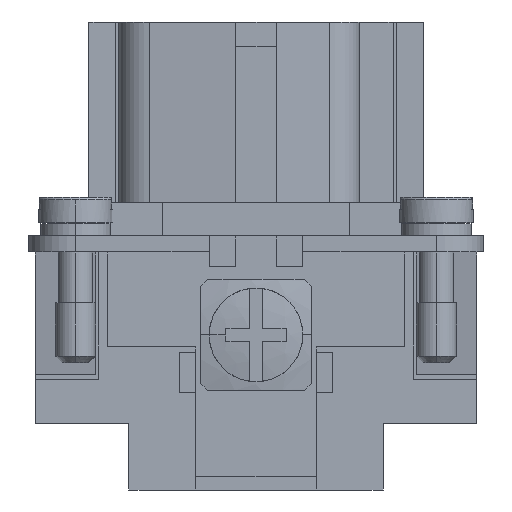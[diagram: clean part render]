
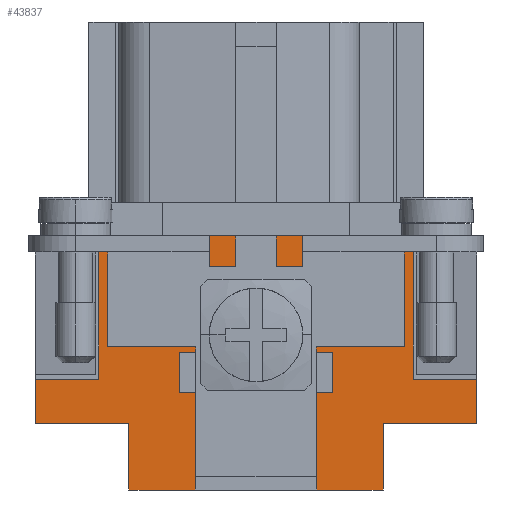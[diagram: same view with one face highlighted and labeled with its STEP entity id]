
A CAD part, left-side view. The second image highlights one B-rep face of the part: STEP entity #43837.
In plain terms, the highlighted planar face has unit normal (-1, 0, 0).
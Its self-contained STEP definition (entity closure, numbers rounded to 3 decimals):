
#6331 = DIRECTION ( 'NONE',  ( 0., 0., 1. ) ) ;
#6545 = DIRECTION ( 'NONE',  ( 0., -1., 0. ) ) ;
#6618 = CARTESIAN_POINT ( 'NONE',  ( -45., -16.5, 0. ) ) ;
#6630 = DIRECTION ( 'NONE',  ( 0., -1., 0. ) ) ;
#6631 = CARTESIAN_POINT ( 'NONE',  ( -45., 9.5, 0. ) ) ;
#6638 = CARTESIAN_POINT ( 'NONE',  ( -45., -16.5, 0. ) ) ;
#6652 = DIRECTION ( 'NONE',  ( 0., 0., -1. ) ) ;
#6678 = CARTESIAN_POINT ( 'NONE',  ( -45., -16.5, 3.5 ) ) ;
#6685 = CARTESIAN_POINT ( 'NONE',  ( -45., -9.5, 0. ) ) ;
#6713 = CARTESIAN_POINT ( 'NONE',  ( -45., 4.55, 0. ) ) ;
#6755 = DIRECTION ( 'NONE',  ( 0., -1., 0. ) ) ;
#6757 = CARTESIAN_POINT ( 'NONE',  ( -45., -4.55, 0. ) ) ;
#6758 = DIRECTION ( 'NONE',  ( 0., 0., -1. ) ) ;
#6772 = DIRECTION ( 'NONE',  ( 0., 0., 1. ) ) ;
#10308 = ORIENTED_EDGE ( 'NONE', *, *, #16523, .T. ) ;
#10329 = ORIENTED_EDGE ( 'NONE', *, *, #16553, .T. ) ;
#10357 = ORIENTED_EDGE ( 'NONE', *, *, #19092, .F. ) ;
#10425 = ORIENTED_EDGE ( 'NONE', *, *, #16789, .T. ) ;
#10469 = ORIENTED_EDGE ( 'NONE', *, *, #19152, .T. ) ;
#10488 = ORIENTED_EDGE ( 'NONE', *, *, #19275, .T. ) ;
#10492 = ORIENTED_EDGE ( 'NONE', *, *, #16532, .T. ) ;
#10507 = ORIENTED_EDGE ( 'NONE', *, *, #19434, .T. ) ;
#10629 = ORIENTED_EDGE ( 'NONE', *, *, #19093, .F. ) ;
#10817 = ORIENTED_EDGE ( 'NONE', *, *, #16527, .T. ) ;
#10888 = ORIENTED_EDGE ( 'NONE', *, *, #16545, .T. ) ;
#10968 = ORIENTED_EDGE ( 'NONE', *, *, #16797, .T. ) ;
#10981 = ORIENTED_EDGE ( 'NONE', *, *, #16547, .T. ) ;
#11019 = ORIENTED_EDGE ( 'NONE', *, *, #16560, .T. ) ;
#11045 = ORIENTED_EDGE ( 'NONE', *, *, #19274, .F. ) ;
#11067 = ORIENTED_EDGE ( 'NONE', *, *, #16690, .T. ) ;
#12412 = EDGE_LOOP ( 'NONE', ( #11067, #10469, #11045, #10357, #10488, #10492, #10817, #11019, #10888, #10981, #10308, #10329, #10507, #10629, #10968, #10425 ) ) ;
#16523 = EDGE_CURVE ( 'NONE', #45088, #44984, #76535, .T. ) ;
#16527 = EDGE_CURVE ( 'NONE', #45199, #44988, #76546, .T. ) ;
#16532 = EDGE_CURVE ( 'NONE', #44995, #45199, #76541, .T. ) ;
#16545 = EDGE_CURVE ( 'NONE', #45198, #45004, #76555, .T. ) ;
#16547 = EDGE_CURVE ( 'NONE', #45004, #45088, #67877, .T. ) ;
#16553 = EDGE_CURVE ( 'NONE', #44984, #45060, #76698, .T. ) ;
#16560 = EDGE_CURVE ( 'NONE', #44988, #45198, #85485, .T. ) ;
#16690 = EDGE_CURVE ( 'NONE', #44849, #45169, #67999, .T. ) ;
#16789 = EDGE_CURVE ( 'NONE', #45231, #44849, #68165, .T. ) ;
#16797 = EDGE_CURVE ( 'NONE', #44972, #45231, #68189, .T. ) ;
#19092 = EDGE_CURVE ( 'NONE', #46286, #46179, #29392, .T. ) ;
#19093 = EDGE_CURVE ( 'NONE', #44972, #46294, #29371, .T. ) ;
#19152 = EDGE_CURVE ( 'NONE', #45169, #46094, #29464, .T. ) ;
#19274 = EDGE_CURVE ( 'NONE', #46179, #46094, #29583, .T. ) ;
#19275 = EDGE_CURVE ( 'NONE', #46286, #44995, #29584, .T. ) ;
#19434 = EDGE_CURVE ( 'NONE', #45060, #46294, #29824, .T. ) ;
#19700 = DIRECTION ( 'NONE',  ( 0., -1., 0. ) ) ;
#19701 = CARTESIAN_POINT ( 'NONE',  ( -45., -16.5, 5. ) ) ;
#19702 = DIRECTION ( 'NONE',  ( 0., -1., 0. ) ) ;
#19703 = CARTESIAN_POINT ( 'NONE',  ( -45., 14.125, 8.3 ) ) ;
#20141 = DIRECTION ( 'NONE',  ( 0., 0., -1. ) ) ;
#20152 = CARTESIAN_POINT ( 'NONE',  ( -45., 11.75, 19. ) ) ;
#21621 = FACE_OUTER_BOUND ( 'NONE', #12412, .T. ) ;
#25150 = CARTESIAN_POINT ( 'NONE',  ( -45., -16.5, 0. ) ) ;
#25164 = PLANE ( 'NONE',  #58046 ) ;
#25181 = DIRECTION ( 'NONE',  ( -1., 0., 0. ) ) ;
#25184 = DIRECTION ( 'NONE',  ( 0., 0., 1. ) ) ;
#29371 = LINE ( 'NONE', #87739, #29394 ) ;
#29392 = LINE ( 'NONE', #88589, #29393 ) ;
#29393 = VECTOR ( 'NONE', #88609, 1000. ) ;
#29394 = VECTOR ( 'NONE', #87660, 1000. ) ;
#29459 = VECTOR ( 'NONE', #20141, 1000. ) ;
#29464 = LINE ( 'NONE', #20152, #29459 ) ;
#29578 = VECTOR ( 'NONE', #19702, 1000. ) ;
#29583 = LINE ( 'NONE', #19703, #29578 ) ;
#29584 = LINE ( 'NONE', #19701, #29585 ) ;
#29585 = VECTOR ( 'NONE', #19700, 1000. ) ;
#29824 = LINE ( 'NONE', #37846, #29825 ) ;
#29825 = VECTOR ( 'NONE', #37844, 1000. ) ;
#32819 = DIRECTION ( 'NONE',  ( 0., 1., 0. ) ) ;
#32821 = CARTESIAN_POINT ( 'NONE',  ( -45., -16.5, 8.3 ) ) ;
#32850 = DIRECTION ( 'NONE',  ( 0., 0., 1. ) ) ;
#32867 = CARTESIAN_POINT ( 'NONE',  ( -45., -11.75, 0. ) ) ;
#33185 = DIRECTION ( 'NONE',  ( 0., 1., 0. ) ) ;
#33187 = CARTESIAN_POINT ( 'NONE',  ( -45., -16.5, 19. ) ) ;
#37844 = DIRECTION ( 'NONE',  ( 0., -1., 0. ) ) ;
#37846 = CARTESIAN_POINT ( 'NONE',  ( -45., -16.5, 5. ) ) ;
#43837 = ADVANCED_FACE ( 'NONE', ( #21621 ), #25164, .T. ) ;
#44849 = VERTEX_POINT ( 'NONE', #86096 ) ;
#44972 = VERTEX_POINT ( 'NONE', #86219 ) ;
#44984 = VERTEX_POINT ( 'NONE', #86231 ) ;
#44988 = VERTEX_POINT ( 'NONE', #86235 ) ;
#44995 = VERTEX_POINT ( 'NONE', #86242 ) ;
#45004 = VERTEX_POINT ( 'NONE', #86251 ) ;
#45060 = VERTEX_POINT ( 'NONE', #86307 ) ;
#45088 = VERTEX_POINT ( 'NONE', #86335 ) ;
#45169 = VERTEX_POINT ( 'NONE', #86429 ) ;
#45198 = VERTEX_POINT ( 'NONE', #86480 ) ;
#45199 = VERTEX_POINT ( 'NONE', #86482 ) ;
#45231 = VERTEX_POINT ( 'NONE', #86538 ) ;
#46094 = VERTEX_POINT ( 'NONE', #88048 ) ;
#46179 = VERTEX_POINT ( 'NONE', #88195 ) ;
#46286 = VERTEX_POINT ( 'NONE', #88377 ) ;
#46294 = VERTEX_POINT ( 'NONE', #88391 ) ;
#58046 = AXIS2_PLACEMENT_3D ( 'NONE', #25150, #25181, #25184 ) ;
#67876 = VECTOR ( 'NONE', #6755, 1000. ) ;
#67877 = LINE ( 'NONE', #6757, #67878 ) ;
#67878 = VECTOR ( 'NONE', #6758, 1000. ) ;
#67888 = VECTOR ( 'NONE', #6331, 1000. ) ;
#67999 = LINE ( 'NONE', #33187, #68013 ) ;
#68013 = VECTOR ( 'NONE', #33185, 1000. ) ;
#68165 = LINE ( 'NONE', #32867, #68174 ) ;
#68174 = VECTOR ( 'NONE', #32850, 1000. ) ;
#68189 = LINE ( 'NONE', #32821, #68191 ) ;
#68191 = VECTOR ( 'NONE', #32819, 1000. ) ;
#76535 = LINE ( 'NONE', #6618, #76542 ) ;
#76541 = LINE ( 'NONE', #6631, #76550 ) ;
#76542 = VECTOR ( 'NONE', #6630, 1000. ) ;
#76546 = LINE ( 'NONE', #6638, #76547 ) ;
#76547 = VECTOR ( 'NONE', #6545, 1000. ) ;
#76550 = VECTOR ( 'NONE', #6652, 1000. ) ;
#76555 = LINE ( 'NONE', #6678, #67876 ) ;
#76667 = VECTOR ( 'NONE', #6772, 1000. ) ;
#76698 = LINE ( 'NONE', #6685, #76667 ) ;
#85485 = LINE ( 'NONE', #6713, #67888 ) ;
#86096 = CARTESIAN_POINT ( 'NONE',  ( -45., -11.75, 19. ) ) ;
#86219 = CARTESIAN_POINT ( 'NONE',  ( -45., -16.5, 8.3 ) ) ;
#86231 = CARTESIAN_POINT ( 'NONE',  ( -45., -9.5, 0. ) ) ;
#86235 = CARTESIAN_POINT ( 'NONE',  ( -45., 4.55, 0. ) ) ;
#86242 = CARTESIAN_POINT ( 'NONE',  ( -45., 9.5, 5. ) ) ;
#86251 = CARTESIAN_POINT ( 'NONE',  ( -45., -4.55, 3.5 ) ) ;
#86307 = CARTESIAN_POINT ( 'NONE',  ( -45., -9.5, 5. ) ) ;
#86335 = CARTESIAN_POINT ( 'NONE',  ( -45., -4.55, 0. ) ) ;
#86429 = CARTESIAN_POINT ( 'NONE',  ( -45., 11.75, 19. ) ) ;
#86480 = CARTESIAN_POINT ( 'NONE',  ( -45., 4.55, 3.5 ) ) ;
#86482 = CARTESIAN_POINT ( 'NONE',  ( -45., 9.5, 0. ) ) ;
#86538 = CARTESIAN_POINT ( 'NONE',  ( -45., -11.75, 8.3 ) ) ;
#87660 = DIRECTION ( 'NONE',  ( 0., 0., -1. ) ) ;
#87739 = CARTESIAN_POINT ( 'NONE',  ( -45., -16.5, 0. ) ) ;
#88048 = CARTESIAN_POINT ( 'NONE',  ( -45., 11.75, 8.3 ) ) ;
#88195 = CARTESIAN_POINT ( 'NONE',  ( -45., 16.5, 8.3 ) ) ;
#88377 = CARTESIAN_POINT ( 'NONE',  ( -45., 16.5, 5. ) ) ;
#88391 = CARTESIAN_POINT ( 'NONE',  ( -45., -16.5, 5. ) ) ;
#88589 = CARTESIAN_POINT ( 'NONE',  ( -45., 16.5, 0. ) ) ;
#88609 = DIRECTION ( 'NONE',  ( 0., 0., 1. ) ) ;
